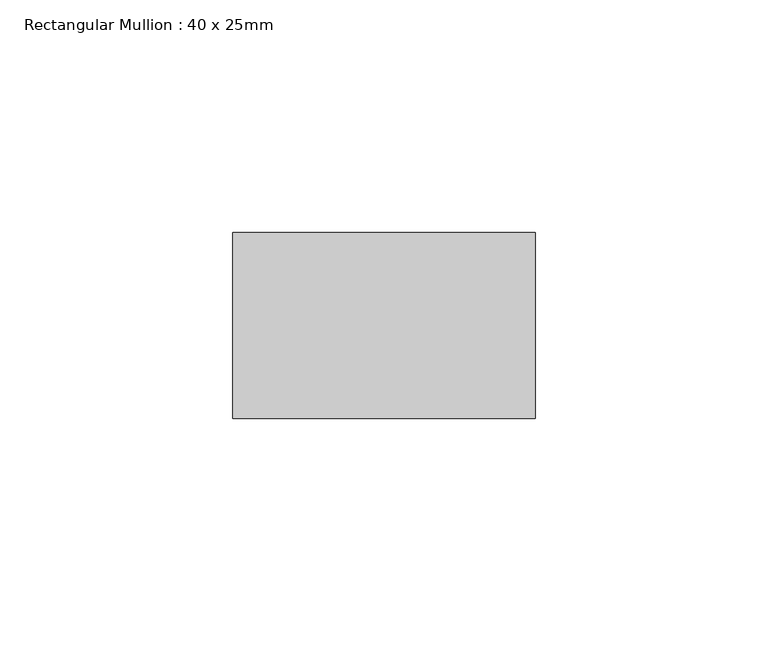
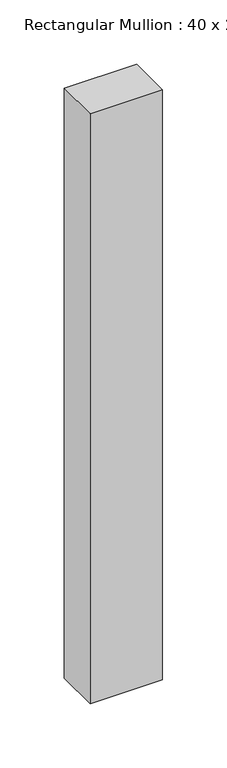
"""IFC4 building model written with IfcOpenShell, lengths in millimetres: member geometry, Rectangular Mullion : 40 x 25mm."""

from ifc_helpers import new_model, si_unit, frame, origin, place, context, project, spatial, polyline, outline, extrude, source, transform, mapped, element, save


def rectangular_mullion_40_x_25mm_4967754e(model_context):
    return source(origin(), model_context, "Body", "SweptSolid", [
        extrude(outline(polyline([(0.0, -20.0), (0.0, -60.0), (-65.0, -60.0), (-65.0, -20.0), (0.0, -20.0)])), frame((0.0, 0.0, -560.0), z_axis=(0.0, 0.0, 1.0), x_axis=(1.0, 0.0, 0.0)), (0.0, 0.0, 1.0), 560.0),
    ])


if __name__ == "__main__":
    model = new_model("IFC4")
    model_context = context("Model", 3, world=origin())
    ifc_project = project(units=[si_unit("LENGTHUNIT", "METRE", prefix="MILLI")], contexts=[model_context])
    site = spatial("IfcSite", under=ifc_project)
    building = spatial("IfcBuilding", under=site)
    placement = place(None, origin())
    rectangular_mullion_40_x_25mm_shape = rectangular_mullion_40_x_25mm_4967754e(model_context)
    element("IfcMember", 1, ObjectType="Rectangular Mullion : 40 x 25mm", at=placement, inside=building, context=model_context, shape_type="MappedRepresentation", body=[
        mapped(rectangular_mullion_40_x_25mm_shape, transform((0.0, 0.0, 0.0), x_axis=(1.0, 0.0, 0.0), y_axis=(0.0, 1.0, 0.0), z_axis=(0.0, 0.0, 1.0))),
    ])
    save(model, "model.ifc")
